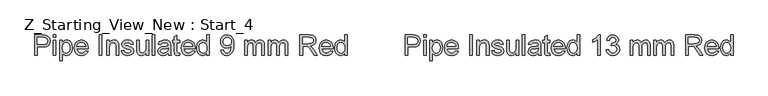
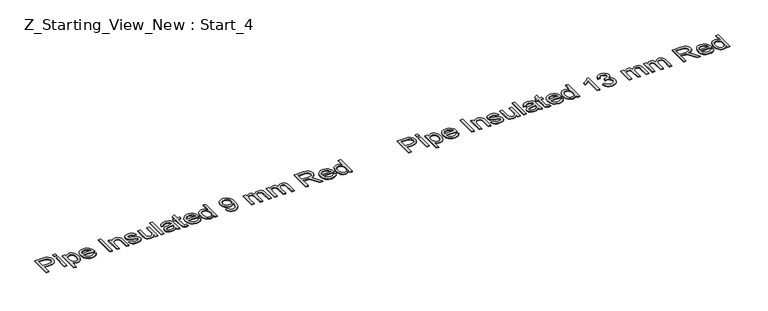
"""IFC4 building model written with IfcOpenShell, lengths in millimetres: pipe fitting geometry, Z_Starting_View_New : Start_4."""

from ifc_helpers import new_model, si_unit, origin, origin_with_axes, place, context, project, spatial, polyline, outline, extrude, source, transform, mapped, element, save


def z_starting_view_new_start_4_b7e0aab5(model_context):
    return source(origin(), model_context, "Body", "SweptSolid", [
        extrude(outline(polyline([(29878.0996155, 7445.7857303), (29878.0996155, 7596.4701955), (29933.9441023, 7596.4701955), (29956.4584805, 7595.0354557), (29974.7606097, 7587.9905155), (29986.6248041, 7573.4223885), (29991.1129644, 7552.8761791), (29988.0825365, 7535.1166757), (29978.9912527, 7520.3186225), (29961.990506, 7510.3306263), (29935.2316893, 7507.0012943), (29896.9351736, 7507.0012943), (29896.9351736, 7445.7857303), (29878.0996155, 7445.7857303)]), holes=[polyline([(29896.9351736, 7525.8368524), (29936.3353353, 7525.8368524), (29953.0371779, 7527.5658978), (29964.0736378, 7532.7530339), (29970.2264641, 7541.0763641), (29972.2774062, 7552.2139915), (29967.439758, 7567.8121881), (29954.7294351, 7576.3470504), (29935.8938769, 7577.6346373), (29896.9351736, 7577.6346373), (29896.9351736, 7525.8368524)])]), origin_with_axes(), (0.0, 0.0, 1.0), 5.0),
        extrude(outline(polyline([(30014.6574121, 7445.7857303), (30014.6574121, 7556.4446344), (30033.4929702, 7556.4446344), (30033.4929702, 7445.7857303), (30014.6574121, 7445.7857303)])), origin_with_axes(), (0.0, 0.0, 1.0), 5.0),
        extrude(outline(polyline([(30014.6574121, 7577.6346373), (30014.6574121, 7596.4701955), (30033.4929702, 7596.4701955), (30033.4929702, 7577.6346373), (30014.6574121, 7577.6346373)])), origin_with_axes(), (0.0, 0.0, 1.0), 5.0),
        extrude(outline(polyline([(30061.7463075, 7403.4057244), (30061.7463075, 7556.4446344), (30080.5818656, 7556.4446344), (30080.5818656, 7537.9769583), (30093.6048883, 7553.593549), (30111.1896476, 7558.7990792), (30123.9275617, 7556.9780633), (30135.0651891, 7551.5150157), (30144.1334803, 7542.7410301), (30150.6633857, 7530.9872003), (30155.9240982, 7501.9613109), (30154.4387747, 7485.8526781), (30149.982804, 7471.4454994), (30142.6987405, 7459.4709405), (30132.7291384, 7450.6601667), (30121.117863, 7445.2385058), (30108.9087793, 7443.4312855), (30092.5196364, 7448.2689337), (30080.5818656, 7460.5010101), (30080.5818656, 7403.4057244), (30061.7463075, 7403.4057244)]), holes=[polyline([(30080.5818656, 7500.2322656), (30082.6190122, 7483.346482), (30088.7304518, 7471.5374699), (30097.7481592, 7464.5845002), (30108.5041091, 7462.2668436), (30119.4348028, 7464.6672737), (30128.6824365, 7471.8685637), (30134.9870142, 7484.1098371), (30137.0885401, 7501.6302171), (30135.037598, 7518.4240302), (30128.8847716, 7530.3985892), (30119.8808598, 7537.5722881), (30109.2766613, 7539.963521), (30098.631076, 7537.4205367), (30089.2822748, 7529.7915839), (30082.7569679, 7517.3157857), (30080.5818656, 7500.2322656)])]), origin_with_axes(), (0.0, 0.0, 1.0), 5.0),
        extrude(outline(polyline([(30254.5900493, 7478.747957), (30273.0577255, 7476.3935123), (30266.4036599, 7462.4783758), (30255.7856658, 7452.0765124), (30241.4428665, 7445.5925922), (30223.6143854, 7443.4312855), (30201.5138745, 7447.1606892), (30184.5085293, 7458.3489004), (30173.6652075, 7476.2693521), (30170.0507669, 7500.1954774), (30173.7019957, 7524.9263445), (30184.6556821, 7543.4216118), (30201.431101, 7554.9547123), (30222.5475276, 7558.7990792), (30243.006365, 7554.9639094), (30259.3541212, 7543.4584), (30270.0732828, 7524.9999209), (30273.6463367, 7500.305842), (30273.5359721, 7495.2290704), (30188.886325, 7495.2290704), (30192.1466792, 7481.129993), (30199.7204498, 7470.7649177), (30210.6511435, 7464.3913622), (30223.9822673, 7462.2668436), (30242.4499435, 7466.203181), (30254.5900493, 7478.747957)]), holes=[polyline([(30188.886325, 7514.0646286), (30254.8107785, 7514.0646286), (30252.2631957, 7524.0158365), (30247.2691976, 7531.1343531), (30236.2879201, 7537.7562291), (30222.4739512, 7539.963521), (30209.7774238, 7538.202286), (30199.2789914, 7532.9185808), (30191.9811323, 7524.6826227), (30188.886325, 7514.0646286)])]), origin_with_axes(), (0.0, 0.0, 1.0), 5.0),
        extrude(outline(polyline([(30356.0519036, 7445.7857303), (30356.0519036, 7596.4701955), (30374.8874618, 7596.4701955), (30374.8874618, 7445.7857303), (30356.0519036, 7445.7857303)])), origin_with_axes(), (0.0, 0.0, 1.0), 5.0),
        extrude(outline(polyline([(30410.2041333, 7445.7857303), (30410.2041333, 7556.4446344), (30429.0396915, 7556.4446344), (30429.0396915, 7540.9935906), (30443.4422716, 7554.347707), (30463.1055642, 7558.7990792), (30480.8926587, 7555.2122297), (30493.0327645, 7545.7944507), (30498.6797531, 7531.9436935), (30499.6730345, 7513.7335348), (30499.6730345, 7445.7857303), (30480.8374764, 7445.7857303), (30480.8374764, 7511.195149), (30478.6669726, 7527.8602034), (30470.996633, 7536.6709772), (30458.0655809, 7539.963521), (30447.0337195, 7538.114914), (30437.629736, 7532.5690929), (30431.1872026, 7521.8545298), (30429.0396915, 7504.4996967), (30429.0396915, 7445.7857303), (30410.2041333, 7445.7857303)])), origin_with_axes(), (0.0, 0.0, 1.0), 5.0),
        extrude(outline(polyline([(30518.5085927, 7478.747957), (30537.3441508, 7481.1024018), (30540.3147979, 7473.0457861), (30546.0629541, 7467.122886), (30566.0389465, 7462.2668436), (30585.2423866, 7466.7182158), (30591.4963805, 7477.1660645), (30589.923685, 7481.9669245), (30585.2055984, 7485.6273503), (30565.8182173, 7490.9984275), (30537.4545154, 7500.2138715), (30525.0752863, 7510.9744198), (30520.8630375, 7526.1679462), (30524.2475518, 7540.2026443), (30533.4813899, 7550.9264045), (30545.4559488, 7556.4998167), (30561.6611507, 7558.7990792), (30584.580199, 7555.1018651), (30599.148326, 7545.0954749), (30605.6230491, 7528.1912972), (30586.787491, 7525.8368524), (30579.7057626, 7536.2295188), (30563.1326787, 7539.963521), (30545.1064609, 7536.3950657), (30539.6985956, 7528.0809326), (30541.9426758, 7522.5994909), (30548.9692219, 7518.4424243), (30565.1928179, 7514.4325106), (30592.8391498, 7505.5665545), (30605.6782314, 7495.523376), (30610.3319387, 7479.1526272), (30604.8688911, 7461.1264095), (30589.1051476, 7448.0482045), (30565.7814291, 7443.4312855), (30546.7895211, 7445.6569716), (30532.9295669, 7452.3340298), (30523.6773347, 7463.3888837), (30518.5085927, 7478.747957)])), origin_with_axes(), (0.0, 0.0, 1.0), 5.0),
        extrude(outline(polyline([(30702.1552847, 7445.7857303), (30702.1552847, 7464.8052294), (30687.4032167, 7448.7747715), (30668.1629883, 7443.4312855), (30650.4494703, 7447.1836818), (30638.235788, 7456.6014609), (30632.6255876, 7470.4706121), (30631.5219416, 7487.9817951), (30631.5219416, 7556.4446344), (30650.3574998, 7556.4446344), (30650.3574998, 7496.8477512), (30651.4979339, 7477.644311), (30658.9475443, 7466.3687279), (30672.9822425, 7462.2668436), (30688.7091978, 7466.4606984), (30699.1018641, 7477.8834343), (30702.1552847, 7498.8711022), (30702.1552847, 7556.4446344), (30720.9908428, 7556.4446344), (30720.9908428, 7445.7857303), (30702.1552847, 7445.7857303)])), origin_with_axes(), (0.0, 0.0, 1.0), 5.0),
        extrude(outline(polyline([(30746.8897353, 7445.7857303), (30746.8897353, 7596.4701955), (30765.7252934, 7596.4701955), (30765.7252934, 7445.7857303), (30746.8897353, 7445.7857303)])), origin_with_axes(), (0.0, 0.0, 1.0), 5.0),
        extrude(outline(polyline([(30864.6119737, 7459.9123989), (30846.3466327, 7447.1468936), (30826.1683053, 7443.4312855), (30810.4275544, 7445.6661686), (30798.8162789, 7452.370818), (30791.6563756, 7462.5519522), (30789.2697411, 7475.2162899), (30792.8749847, 7490.1155107), (30802.3479461, 7500.9312413), (30815.5365156, 7507.1116589), (30831.833688, 7509.9443502), (30864.5016091, 7516.4190733), (30864.6119737, 7520.6129281), (30863.3151897, 7529.0190317), (30859.4248376, 7534.5188675), (30850.7244284, 7538.6023576), (30838.6027167, 7539.963521), (30819.5464293, 7536.3398834), (30810.4597441, 7523.4824076), (30791.6241859, 7525.8368524), (30799.7727721, 7544.2309522), (30816.1803091, 7555.0098946), (30841.0307379, 7558.7990792), (30863.8578157, 7555.451353), (30876.7520796, 7547.0452494), (30882.5278269, 7534.2613501), (30883.4475319, 7517.7802367), (30883.4475319, 7494.3461536), (30884.4040251, 7461.6230502), (30888.1564214, 7445.7857303), (30869.3208633, 7445.7857303), (30864.6119737, 7459.9123989)]), holes=[polyline([(30864.6119737, 7497.5835152), (30834.2249209, 7491.8077679), (30818.0197191, 7488.7543473), (30810.6804733, 7483.7879404), (30808.1052993, 7476.5406651), (30813.7154997, 7466.3503338), (30830.178219, 7462.2668436), (30849.2345063, 7466.7733981), (30861.521765, 7477.6810992), (30864.5016091, 7492.2492263), (30864.6119737, 7497.5835152)])]), origin_with_axes(), (0.0, 0.0, 1.0), 5.0),
        extrude(outline(polyline([(30949.3719854, 7461.4942915), (30951.7264302, 7445.2339073), (30937.6365498, 7443.4312855), (30921.8544122, 7446.5582825), (30913.9817375, 7454.7620509), (30911.7008691, 7476.1359949), (30911.7008691, 7537.6090763), (30897.5742005, 7537.6090763), (30897.5742005, 7556.4446344), (30911.7008691, 7556.4446344), (30911.7008691, 7583.3368083), (30930.5364273, 7594.4100563), (30930.5364273, 7556.4446344), (30949.3719854, 7556.4446344), (30949.3719854, 7537.6090763), (30930.5364273, 7537.6090763), (30930.5364273, 7476.6878179), (30931.5297087, 7466.9757332), (30934.7486761, 7463.5360365), (30941.1682169, 7462.2668436), (30949.3719854, 7461.4942915)])), origin_with_axes(), (0.0, 0.0, 1.0), 5.0),
        extrude(outline(polyline([(31045.6834918, 7478.747957), (31064.1511679, 7476.3935123), (31057.4971023, 7462.4783758), (31046.8791083, 7452.0765124), (31032.536309, 7445.5925922), (31014.7078278, 7443.4312855), (30992.6073169, 7447.1606892), (30975.6019717, 7458.3489004), (30964.7586499, 7476.2693521), (30961.1442093, 7500.1954774), (30964.7954381, 7524.9263445), (30975.7491245, 7543.4216118), (30992.5245435, 7554.9547123), (31013.64097, 7558.7990792), (31034.0998074, 7554.9639094), (31050.4475636, 7543.4584), (31061.1667252, 7524.9999209), (31064.7397791, 7500.305842), (31064.6294145, 7495.2290704), (30979.9797674, 7495.2290704), (30983.2401216, 7481.129993), (30990.8138922, 7470.7649177), (31001.744586, 7464.3913622), (31015.0757098, 7462.2668436), (31033.5433859, 7466.203181), (31045.6834918, 7478.747957)]), holes=[polyline([(30979.9797674, 7514.0646286), (31045.904221, 7514.0646286), (31043.3566382, 7524.0158365), (31038.3626401, 7531.1343531), (31027.3813625, 7537.7562291), (31013.5673936, 7539.963521), (31000.8708662, 7538.202286), (30990.3724338, 7532.9185808), (30983.0745747, 7524.6826227), (30979.9797674, 7514.0646286)])]), origin_with_axes(), (0.0, 0.0, 1.0), 5.0),
        extrude(outline(polyline([(31151.8542356, 7445.7857303), (31151.8542356, 7463.5544306), (31139.392233, 7448.4620718), (31122.1661586, 7443.4312855), (31109.9892645, 7445.2523014), (31098.8424401, 7450.715349), (31089.4062669, 7459.4387508), (31082.3613267, 7471.0408292), (31077.9743339, 7485.0525347), (31076.512003, 7501.0048177), (31081.9014742, 7530.9872003), (31088.6337147, 7542.8789858), (31098.0514938, 7551.6253803), (31109.4420401, 7557.0056545), (31122.0925822, 7558.7990792), (31139.4566123, 7553.6671254), (31151.8542356, 7540.331403), (31151.8542356, 7596.4701955), (31170.6897937, 7596.4701955), (31170.6897937, 7445.7857303), (31151.8542356, 7445.7857303)]), holes=[polyline([(31095.3475611, 7501.0783941), (31097.4720796, 7484.0408592), (31103.8456352, 7471.923746), (31113.1070644, 7464.6810692), (31123.8952039, 7462.2668436), (31134.6787449, 7464.5707046), (31143.7056494, 7471.4822876), (31149.817089, 7483.1303513), (31151.8542356, 7499.6436544), (31149.7803008, 7517.6974633), (31143.5584966, 7530.2146482), (31134.3016659, 7537.5263028), (31123.1226518, 7539.963521), (31112.2241477, 7537.6228718), (31103.2938122, 7530.6009243), (31097.3341239, 7518.5389933), (31095.3475611, 7501.0783941)])]), origin_with_axes(), (0.0, 0.0, 1.0), 5.0),
        extrude(outline(polyline([(31255.4498054, 7483.4568466), (31274.2853636, 7485.8112913), (31277.504331, 7475.1197209), (31282.7466495, 7467.8402559), (31289.8835602, 7463.6601967), (31298.7863045, 7462.2668436), (31314.0350132, 7465.8536931), (31324.3724972, 7475.4370191), (31330.5345206, 7491.8077679), (31333.2568474, 7513.6599584), (31333.1464828, 7517.3387783), (31318.0817151, 7503.0649569), (31297.4251411, 7497.5835152), (31280.2496504, 7500.9312413), (31265.9528364, 7510.9744198), (31256.3097296, 7526.489843), (31253.0953607, 7546.2543031), (31256.4660794, 7566.6717539), (31266.5782358, 7582.6746207), (31281.7671637, 7593.0213018), (31300.368197, 7596.4701955), (31314.4166907, 7594.5020268), (31327.2051886, 7588.5975208), (31337.9013576, 7579.050983), (31345.6728647, 7566.1567191), (31350.4047469, 7548.3328364), (31351.982041, 7523.9974424), (31350.4093454, 7498.195119), (31345.6912588, 7478.2513163), (31337.8691679, 7463.2647236), (31326.9844594, 7452.3340298), (31313.5061828, 7445.6569716), (31297.9033877, 7443.4312855), (31281.7993533, 7446.0570432), (31268.9510746, 7453.9343165), (31259.9655569, 7466.5664645), (31255.4498054, 7483.4568466)]), holes=[polyline([(31333.1464828, 7546.6957615), (31331.1139348, 7559.4612668), (31325.0162907, 7569.283716), (31315.5525264, 7575.546907), (31303.4216176, 7577.6346373), (31290.8400534, 7575.3859586), (31280.7600867, 7568.6399226), (31274.1382108, 7558.3162341), (31271.9309188, 7545.3345982), (31274.0186491, 7533.6957315), (31280.2818401, 7524.4572949), (31290.1134864, 7518.4286287), (31302.9065828, 7516.4190733), (31314.9409226, 7518.4286287), (31324.6300146, 7524.4572949), (31331.0173658, 7534.0360224), (31333.1464828, 7546.6957615)])]), origin_with_axes(), (0.0, 0.0, 1.0), 5.0),
        extrude(outline(polyline([(31432.0331631, 7445.7857303), (31432.0331631, 7556.4446344), (31450.8687213, 7556.4446344), (31450.8687213, 7538.2344757), (31463.8181675, 7553.1520906), (31482.2490554, 7558.7990792), (31492.7244953, 7557.3597409), (31501.1214018, 7553.041726), (31511.4956741, 7536.9101005), (31526.1925598, 7553.3268345), (31544.7522064, 7558.7990792), (31558.9110647, 7556.5228093), (31569.381906, 7549.6939998), (31575.8520306, 7538.1287096), (31578.0087388, 7521.6429977), (31578.0087388, 7445.7857303), (31559.1731806, 7445.7857303), (31559.1731806, 7513.5495938), (31557.4257412, 7529.2765491), (31551.0981708, 7537.0204651), (31540.3376225, 7539.963521), (31530.1334956, 7538.0781258), (31521.814764, 7532.4219401), (31516.2827385, 7522.6086879), (31514.43873, 7508.252093), (31514.43873, 7445.7857303), (31495.6031719, 7445.7857303), (31495.6031719, 7515.6465212), (31491.2437702, 7533.8934681), (31485.4910155, 7538.4460078), (31476.9515547, 7539.963521), (31463.0088271, 7535.9168191), (31453.7382008, 7524.0710188), (31450.8687213, 7501.5934289), (31450.8687213, 7445.7857303), (31432.0331631, 7445.7857303)])), origin_with_axes(), (0.0, 0.0, 1.0), 5.0),
        extrude(outline(polyline([(31606.262076, 7445.7857303), (31606.262076, 7556.4446344), (31625.0976342, 7556.4446344), (31625.0976342, 7538.2344757), (31638.0470804, 7553.1520906), (31656.4779684, 7558.7990792), (31666.9534082, 7557.3597409), (31675.3503147, 7553.041726), (31685.724587, 7536.9101005), (31700.4214727, 7553.3268345), (31718.9811193, 7558.7990792), (31733.1399776, 7556.5228093), (31743.6108189, 7549.6939998), (31750.0809435, 7538.1287096), (31752.2376517, 7521.6429977), (31752.2376517, 7445.7857303), (31733.4020936, 7445.7857303), (31733.4020936, 7513.5495938), (31731.6546541, 7529.2765491), (31725.3270838, 7537.0204651), (31714.5665354, 7539.963521), (31704.3624086, 7538.0781258), (31696.0436769, 7532.4219401), (31690.5116514, 7522.6086879), (31688.6676429, 7508.252093), (31688.6676429, 7445.7857303), (31669.8320848, 7445.7857303), (31669.8320848, 7515.6465212), (31665.4726831, 7533.8934681), (31659.7199284, 7538.4460078), (31651.1804676, 7539.963521), (31637.23774, 7535.9168191), (31627.9671137, 7524.0710188), (31625.0976342, 7501.5934289), (31625.0976342, 7445.7857303), (31606.262076, 7445.7857303)])), origin_with_axes(), (0.0, 0.0, 1.0), 5.0),
        extrude(outline(polyline([(31841.7065529, 7445.7857303), (31841.7065529, 7596.4701955), (31906.6377251, 7596.4701955), (31936.7856546, 7592.4050994), (31946.0654779, 7586.7765049), (31953.266768, 7578.0209134), (31957.8882855, 7567.163796), (31959.4287914, 7555.2306238), (31956.8766101, 7540.3865853), (31949.220066, 7528.0809326), (31936.2292331, 7519.0586267), (31917.6741849, 7514.0646286), (31928.379551, 7506.0080129), (31943.6466538, 7486.6206317), (31968.7729941, 7445.7857303), (31946.8840154, 7445.7857303), (31927.275905, 7477.0189117), (31913.1124482, 7497.6938798), (31903.1612402, 7507.4611468), (31894.2033136, 7511.0479962), (31883.2772184, 7511.7101838), (31860.5421111, 7511.7101838), (31860.5421111, 7445.7857303), (31841.7065529, 7445.7857303)]), holes=[polyline([(31860.5421111, 7530.545742), (31902.7013877, 7530.545742), (31924.2040904, 7533.2128864), (31936.4177726, 7541.7477487), (31940.5932332, 7554.531648), (31938.6020719, 7563.7195009), (31932.628588, 7571.123126), (31922.3508848, 7576.0067595), (31907.4470655, 7577.6346373), (31860.5421111, 7577.6346373), (31860.5421111, 7530.545742)])]), origin_with_axes(), (0.0, 0.0, 1.0), 5.0),
        extrude(outline(polyline([(32067.5125216, 7478.747957), (32085.9801977, 7476.3935123), (32079.3261321, 7462.4783758), (32068.7081381, 7452.0765124), (32054.3653388, 7445.5925922), (32036.5368576, 7443.4312855), (32014.4363467, 7447.1606892), (31997.4310015, 7458.3489004), (31986.5876797, 7476.2693521), (31982.9732391, 7500.1954774), (31986.6244679, 7524.9263445), (31997.5781543, 7543.4216118), (32014.3535733, 7554.9547123), (32035.4699998, 7558.7990792), (32055.9288373, 7554.9639094), (32072.2765934, 7543.4584), (32082.995755, 7524.9999209), (32086.5688089, 7500.305842), (32086.4584443, 7495.2290704), (32001.8087972, 7495.2290704), (32005.0691514, 7481.129993), (32012.642922, 7470.7649177), (32023.5736158, 7464.3913622), (32036.9047396, 7462.2668436), (32055.3724157, 7466.203181), (32067.5125216, 7478.747957)]), holes=[polyline([(32001.8087972, 7514.0646286), (32067.7332508, 7514.0646286), (32065.185668, 7524.0158365), (32060.1916699, 7531.1343531), (32049.2103923, 7537.7562291), (32035.3964234, 7539.963521), (32022.699896, 7538.202286), (32012.2014636, 7532.9185808), (32004.9036045, 7524.6826227), (32001.8087972, 7514.0646286)])]), origin_with_axes(), (0.0, 0.0, 1.0), 5.0),
        extrude(outline(polyline([(32173.6832654, 7445.7857303), (32173.6832654, 7463.5544306), (32161.2212628, 7448.4620718), (32143.9951884, 7443.4312855), (32131.8182943, 7445.2523014), (32120.6714699, 7450.715349), (32111.2352967, 7459.4387508), (32104.1903565, 7471.0408292), (32099.8033637, 7485.0525347), (32098.3410328, 7501.0048177), (32103.730504, 7530.9872003), (32110.4627445, 7542.8789858), (32119.8805236, 7551.6253803), (32131.2710699, 7557.0056545), (32143.921612, 7558.7990792), (32161.2856421, 7553.6671254), (32173.6832654, 7540.331403), (32173.6832654, 7596.4701955), (32192.5188235, 7596.4701955), (32192.5188235, 7445.7857303), (32173.6832654, 7445.7857303)]), holes=[polyline([(32117.1765909, 7501.0783941), (32119.3011094, 7484.0408592), (32125.674665, 7471.923746), (32134.9360942, 7464.6810692), (32145.7242338, 7462.2668436), (32156.5077747, 7464.5707046), (32165.5346792, 7471.4822876), (32171.6461188, 7483.1303513), (32173.6832654, 7499.6436544), (32171.6093306, 7517.6974633), (32165.3875264, 7530.2146482), (32156.1306957, 7537.5263028), (32144.9516816, 7539.963521), (32134.0531775, 7537.6228718), (32125.122842, 7530.6009243), (32119.1631537, 7518.5389933), (32117.1765909, 7501.0783941)])]), origin_with_axes(), (0.0, 0.0, 1.0), 5.0),
        extrude(outline(polyline([(32620.4157186, 7445.7857303), (32620.4157186, 7596.4701955), (32676.2602055, 7596.4701955), (32698.7745836, 7595.0354557), (32717.0767129, 7587.9905155), (32728.9409072, 7573.4223885), (32733.4290676, 7552.8761791), (32730.3986396, 7535.1166757), (32721.3073558, 7520.3186225), (32704.3066091, 7510.3306263), (32677.5477925, 7507.0012943), (32639.2512768, 7507.0012943), (32639.2512768, 7445.7857303), (32620.4157186, 7445.7857303)]), holes=[polyline([(32639.2512768, 7525.8368524), (32678.6514385, 7525.8368524), (32695.3532811, 7527.5658978), (32706.3897409, 7532.7530339), (32712.5425673, 7541.0763641), (32714.5935094, 7552.2139915), (32709.7558612, 7567.8121881), (32697.0455382, 7576.3470504), (32678.2099801, 7577.6346373), (32639.2512768, 7577.6346373), (32639.2512768, 7525.8368524)])]), origin_with_axes(), (0.0, 0.0, 1.0), 5.0),
        extrude(outline(polyline([(32756.9735152, 7445.7857303), (32756.9735152, 7556.4446344), (32775.8090734, 7556.4446344), (32775.8090734, 7445.7857303), (32756.9735152, 7445.7857303)])), origin_with_axes(), (0.0, 0.0, 1.0), 5.0),
        extrude(outline(polyline([(32756.9735152, 7577.6346373), (32756.9735152, 7596.4701955), (32775.8090734, 7596.4701955), (32775.8090734, 7577.6346373), (32756.9735152, 7577.6346373)])), origin_with_axes(), (0.0, 0.0, 1.0), 5.0),
        extrude(outline(polyline([(32804.0624106, 7403.4057244), (32804.0624106, 7556.4446344), (32822.8979688, 7556.4446344), (32822.8979688, 7537.9769583), (32835.9209914, 7553.593549), (32853.5057508, 7558.7990792), (32866.2436649, 7556.9780633), (32877.3812923, 7551.5150157), (32886.4495834, 7542.7410301), (32892.9794889, 7530.9872003), (32898.2402014, 7501.9613109), (32896.7548778, 7485.8526781), (32892.2989072, 7471.4454994), (32885.0148437, 7459.4709405), (32875.0452416, 7450.6601667), (32863.4339661, 7445.2385058), (32851.2248824, 7443.4312855), (32834.8357395, 7448.2689337), (32822.8979688, 7460.5010101), (32822.8979688, 7403.4057244), (32804.0624106, 7403.4057244)]), holes=[polyline([(32822.8979688, 7500.2322656), (32824.9351153, 7483.346482), (32831.046555, 7471.5374699), (32840.0642624, 7464.5845002), (32850.8202122, 7462.2668436), (32861.750906, 7464.6672737), (32870.9985397, 7471.8685637), (32877.3031173, 7484.1098371), (32879.4046432, 7501.6302171), (32877.3537011, 7518.4240302), (32871.2008747, 7530.3985892), (32862.1969629, 7537.5722881), (32851.5927644, 7539.963521), (32840.9471792, 7537.4205367), (32831.598378, 7529.7915839), (32825.0730711, 7517.3157857), (32822.8979688, 7500.2322656)])]), origin_with_axes(), (0.0, 0.0, 1.0), 5.0),
        extrude(outline(polyline([(32996.9061525, 7478.747957), (33015.3738287, 7476.3935123), (33008.7197631, 7462.4783758), (32998.101769, 7452.0765124), (32983.7589697, 7445.5925922), (32965.9304885, 7443.4312855), (32943.8299776, 7447.1606892), (32926.8246324, 7458.3489004), (32915.9813106, 7476.2693521), (32912.36687, 7500.1954774), (32916.0180988, 7524.9263445), (32926.9717852, 7543.4216118), (32943.7472042, 7554.9547123), (32964.8636307, 7558.7990792), (32985.3224682, 7554.9639094), (33001.6702243, 7543.4584), (33012.389386, 7524.9999209), (33015.9624399, 7500.305842), (33015.8520753, 7495.2290704), (32931.2024282, 7495.2290704), (32934.4627823, 7481.129993), (32942.0365529, 7470.7649177), (32952.9672467, 7464.3913622), (32966.2983705, 7462.2668436), (32984.7660467, 7466.203181), (32996.9061525, 7478.747957)]), holes=[polyline([(32931.2024282, 7514.0646286), (32997.1268817, 7514.0646286), (32994.5792989, 7524.0158365), (32989.5853008, 7531.1343531), (32978.6040232, 7537.7562291), (32964.7900543, 7539.963521), (32952.093527, 7538.202286), (32941.5950945, 7532.9185808), (32934.2972354, 7524.6826227), (32931.2024282, 7514.0646286)])]), origin_with_axes(), (0.0, 0.0, 1.0), 5.0),
        extrude(outline(polyline([(33098.3680068, 7445.7857303), (33098.3680068, 7596.4701955), (33117.2035649, 7596.4701955), (33117.2035649, 7445.7857303), (33098.3680068, 7445.7857303)])), origin_with_axes(), (0.0, 0.0, 1.0), 5.0),
        extrude(outline(polyline([(33152.5202365, 7445.7857303), (33152.5202365, 7556.4446344), (33171.3557946, 7556.4446344), (33171.3557946, 7540.9935906), (33185.7583747, 7554.347707), (33205.4216674, 7558.7990792), (33223.2087618, 7555.2122297), (33235.3488677, 7545.7944507), (33240.9958563, 7531.9436935), (33241.9891377, 7513.7335348), (33241.9891377, 7445.7857303), (33223.1535795, 7445.7857303), (33223.1535795, 7511.195149), (33220.9830758, 7527.8602034), (33213.3127362, 7536.6709772), (33200.381684, 7539.963521), (33189.3498227, 7538.114914), (33179.9458392, 7532.5690929), (33173.5033058, 7521.8545298), (33171.3557946, 7504.4996967), (33171.3557946, 7445.7857303), (33152.5202365, 7445.7857303)])), origin_with_axes(), (0.0, 0.0, 1.0), 5.0),
        extrude(outline(polyline([(33260.8246958, 7478.747957), (33279.660254, 7481.1024018), (33282.6309011, 7473.0457861), (33288.3790573, 7467.122886), (33308.3550496, 7462.2668436), (33327.5584898, 7466.7182158), (33333.8124837, 7477.1660645), (33332.2397882, 7481.9669245), (33327.5217016, 7485.6273503), (33308.1343204, 7490.9984275), (33279.7706186, 7500.2138715), (33267.3913895, 7510.9744198), (33263.1791406, 7526.1679462), (33266.563655, 7540.2026443), (33275.797493, 7550.9264045), (33287.772052, 7556.4998167), (33303.9772539, 7558.7990792), (33326.8963022, 7555.1018651), (33341.4644292, 7545.0954749), (33347.9391523, 7528.1912972), (33329.1035941, 7525.8368524), (33322.0218657, 7536.2295188), (33305.4487819, 7539.963521), (33287.4225641, 7536.3950657), (33282.0146988, 7528.0809326), (33284.2587789, 7522.5994909), (33291.285325, 7518.4424243), (33307.508921, 7514.4325106), (33335.155253, 7505.5665545), (33347.9943346, 7495.523376), (33352.6480418, 7479.1526272), (33347.1849942, 7461.1264095), (33331.4212507, 7448.0482045), (33308.0975322, 7443.4312855), (33289.1056242, 7445.6569716), (33275.2456701, 7452.3340298), (33265.9934379, 7463.3888837), (33260.8246958, 7478.747957)])), origin_with_axes(), (0.0, 0.0, 1.0), 5.0),
        extrude(outline(polyline([(33444.4713878, 7445.7857303), (33444.4713878, 7464.8052294), (33429.7193198, 7448.7747715), (33410.4790915, 7443.4312855), (33392.7655734, 7447.1836818), (33380.5518912, 7456.6014609), (33374.9416907, 7470.4706121), (33373.8380448, 7487.9817951), (33373.8380448, 7556.4446344), (33392.6736029, 7556.4446344), (33392.6736029, 7496.8477512), (33393.8140371, 7477.644311), (33401.2636475, 7466.3687279), (33415.2983456, 7462.2668436), (33431.0253009, 7466.4606984), (33441.4179673, 7477.8834343), (33444.4713878, 7498.8711022), (33444.4713878, 7556.4446344), (33463.306946, 7556.4446344), (33463.306946, 7445.7857303), (33444.4713878, 7445.7857303)])), origin_with_axes(), (0.0, 0.0, 1.0), 5.0),
        extrude(outline(polyline([(33489.2058384, 7445.7857303), (33489.2058384, 7596.4701955), (33508.0413966, 7596.4701955), (33508.0413966, 7445.7857303), (33489.2058384, 7445.7857303)])), origin_with_axes(), (0.0, 0.0, 1.0), 5.0),
        extrude(outline(polyline([(33606.9280769, 7459.9123989), (33588.6627358, 7447.1468936), (33568.4844084, 7443.4312855), (33552.7436575, 7445.6661686), (33541.1323821, 7452.370818), (33533.9724787, 7462.5519522), (33531.5858443, 7475.2162899), (33535.1910878, 7490.1155107), (33544.6640492, 7500.9312413), (33557.8526187, 7507.1116589), (33574.1497911, 7509.9443502), (33606.8177123, 7516.4190733), (33606.9280769, 7520.6129281), (33605.6312929, 7529.0190317), (33601.7409408, 7534.5188675), (33593.0405316, 7538.6023576), (33580.9188198, 7539.963521), (33561.8625325, 7536.3398834), (33552.7758472, 7523.4824076), (33533.9402891, 7525.8368524), (33542.0888753, 7544.2309522), (33558.4964122, 7555.0098946), (33583.346841, 7558.7990792), (33606.1739188, 7555.451353), (33619.0681827, 7547.0452494), (33624.8439301, 7534.2613501), (33625.7636351, 7517.7802367), (33625.7636351, 7494.3461536), (33626.7201282, 7461.6230502), (33630.4725246, 7445.7857303), (33611.6369664, 7445.7857303), (33606.9280769, 7459.9123989)]), holes=[polyline([(33606.9280769, 7497.5835152), (33576.5410241, 7491.8077679), (33560.3358222, 7488.7543473), (33552.9965764, 7483.7879404), (33550.4214024, 7476.5406651), (33556.0316029, 7466.3503338), (33572.4943222, 7462.2668436), (33591.5506095, 7466.7733981), (33603.8378681, 7477.6810992), (33606.8177123, 7492.2492263), (33606.9280769, 7497.5835152)])]), origin_with_axes(), (0.0, 0.0, 1.0), 5.0),
        extrude(outline(polyline([(33691.6880886, 7461.4942915), (33694.0425334, 7445.2339073), (33679.9526529, 7443.4312855), (33664.1705154, 7446.5582825), (33656.2978407, 7454.7620509), (33654.0169723, 7476.1359949), (33654.0169723, 7537.6090763), (33639.8903037, 7537.6090763), (33639.8903037, 7556.4446344), (33654.0169723, 7556.4446344), (33654.0169723, 7583.3368083), (33672.8525304, 7594.4100563), (33672.8525304, 7556.4446344), (33691.6880886, 7556.4446344), (33691.6880886, 7537.6090763), (33672.8525304, 7537.6090763), (33672.8525304, 7476.6878179), (33673.8458118, 7466.9757332), (33677.0647793, 7463.5360365), (33683.4843201, 7462.2668436), (33691.6880886, 7461.4942915)])), origin_with_axes(), (0.0, 0.0, 1.0), 5.0),
        extrude(outline(polyline([(33787.9995949, 7478.747957), (33806.4672711, 7476.3935123), (33799.8132055, 7462.4783758), (33789.1952114, 7452.0765124), (33774.8524121, 7445.5925922), (33757.0239309, 7443.4312855), (33734.9234201, 7447.1606892), (33717.9180748, 7458.3489004), (33707.074753, 7476.2693521), (33703.4603124, 7500.1954774), (33707.1115412, 7524.9263445), (33718.0652276, 7543.4216118), (33734.8406466, 7554.9547123), (33755.9570731, 7558.7990792), (33776.4159106, 7554.9639094), (33792.7636668, 7543.4584), (33803.4828284, 7524.9999209), (33807.0558823, 7500.305842), (33806.9455177, 7495.2290704), (33722.2958706, 7495.2290704), (33725.5562248, 7481.129993), (33733.1299953, 7470.7649177), (33744.0606891, 7464.3913622), (33757.3918129, 7462.2668436), (33775.8594891, 7466.203181), (33787.9995949, 7478.747957)]), holes=[polyline([(33722.2958706, 7514.0646286), (33788.2203241, 7514.0646286), (33785.6727413, 7524.0158365), (33780.6787432, 7531.1343531), (33769.6974657, 7537.7562291), (33755.8834968, 7539.963521), (33743.1869694, 7538.202286), (33732.688537, 7532.9185808), (33725.3906779, 7524.6826227), (33722.2958706, 7514.0646286)])]), origin_with_axes(), (0.0, 0.0, 1.0), 5.0),
        extrude(outline(polyline([(33894.1703387, 7445.7857303), (33894.1703387, 7463.5544306), (33881.7083362, 7448.4620718), (33864.4822617, 7443.4312855), (33852.3053677, 7445.2523014), (33841.1585432, 7450.715349), (33831.7223701, 7459.4387508), (33824.6774298, 7471.0408292), (33820.2904371, 7485.0525347), (33818.8281061, 7501.0048177), (33824.2175774, 7530.9872003), (33830.9498179, 7542.8789858), (33840.3675969, 7551.6253803), (33851.7581432, 7557.0056545), (33864.4086853, 7558.7990792), (33881.7727155, 7553.6671254), (33894.1703387, 7540.331403), (33894.1703387, 7596.4701955), (33913.0058969, 7596.4701955), (33913.0058969, 7445.7857303), (33894.1703387, 7445.7857303)]), holes=[polyline([(33837.6636643, 7501.0783941), (33839.7881828, 7484.0408592), (33846.1617384, 7471.923746), (33855.4231676, 7464.6810692), (33866.2113071, 7462.2668436), (33876.9948481, 7464.5707046), (33886.0217525, 7471.4822876), (33892.1331922, 7483.1303513), (33894.1703387, 7499.6436544), (33892.096404, 7517.6974633), (33885.8745997, 7530.2146482), (33876.617769, 7537.5263028), (33865.4387549, 7539.963521), (33854.5402508, 7537.6228718), (33845.6099154, 7530.6009243), (33839.6502271, 7518.5389933), (33837.6636643, 7501.0783941)])]), origin_with_axes(), (0.0, 0.0, 1.0), 5.0),
        extrude(outline(polyline([(34066.0448069, 7445.7857303), (34047.2092487, 7445.7857303), (34047.2092487, 7563.2136631), (34029.366972, 7550.5033402), (34009.5381324, 7540.9935906), (34009.5381324, 7558.7990792), (34037.1476762, 7576.4206268), (34053.904701, 7596.4701955), (34066.0448069, 7596.4701955), (34066.0448069, 7445.7857303)])), origin_with_axes(), (0.0, 0.0, 1.0), 5.0),
        extrude(outline(polyline([(34110.7792575, 7485.8112913), (34129.6148157, 7488.1657361), (34133.831663, 7476.3291329), (34140.007482, 7468.3368966), (34148.4457753, 7463.7843569), (34159.4500455, 7462.2668436), (34172.3627035, 7464.354574), (34182.3323056, 7470.6177649), (34188.7058611, 7479.9619676), (34190.8303796, 7491.2927331), (34188.7242552, 7502.0486829), (34182.405882, 7510.7720847), (34172.8409501, 7516.5524306), (34160.9951498, 7518.4792125), (34147.7881862, 7516.4190733), (34149.8851136, 7535.2546315), (34152.9017459, 7535.0339023), (34174.2756899, 7540.4417676), (34181.3942065, 7547.3027668), (34183.7670453, 7557.0700338), (34182.047197, 7565.2048244), (34176.887652, 7571.8037077), (34169.0149773, 7576.1769049), (34159.1557399, 7577.6346373), (34149.2781083, 7576.1631094), (34141.2030985, 7571.7485254), (34135.3077895, 7564.3908855), (34131.9692604, 7554.0901896), (34113.1337023, 7556.4446344), (34118.6795233, 7573.3580091), (34128.5479579, 7585.9855586), (34142.0492271, 7593.8490363), (34158.4935523, 7596.4701955), (34181.2102655, 7591.3014535), (34197.1027677, 7577.1747848), (34202.6026035, 7558.1736798), (34197.3786792, 7540.8096496), (34181.9276354, 7528.33845), (34193.7182533, 7523.5743781), (34202.4554507, 7515.4625802), (34207.863316, 7504.4445144), (34209.6659378, 7490.9616393), (34206.0606942, 7472.6043277), (34195.2449636, 7457.2636485), (34178.9202001, 7446.8893763), (34158.7878579, 7443.4312855), (34140.5776991, 7446.3835385), (34125.7520547, 7455.2402975), (34115.4421618, 7468.787552), (34110.7792575, 7485.8112913)])), origin_with_axes(), (0.0, 0.0, 1.0), 5.0),
        extrude(outline(polyline([(34289.71706, 7445.7857303), (34289.71706, 7556.4446344), (34308.5526181, 7556.4446344), (34308.5526181, 7538.2344757), (34321.5020643, 7553.1520906), (34339.9329523, 7558.7990792), (34350.4083921, 7557.3597409), (34358.8052986, 7553.041726), (34369.1795709, 7536.9101005), (34383.8764566, 7553.3268345), (34402.4361033, 7558.7990792), (34416.5949616, 7556.5228093), (34427.0658029, 7549.6939998), (34433.5359274, 7538.1287096), (34435.6926356, 7521.6429977), (34435.6926356, 7445.7857303), (34416.8570775, 7445.7857303), (34416.8570775, 7513.5495938), (34415.109638, 7529.2765491), (34408.7820677, 7537.0204651), (34398.0215193, 7539.963521), (34387.8173925, 7538.0781258), (34379.4986609, 7532.4219401), (34373.9666354, 7522.6086879), (34372.1226269, 7508.252093), (34372.1226269, 7445.7857303), (34353.2870687, 7445.7857303), (34353.2870687, 7515.6465212), (34348.9276671, 7533.8934681), (34343.1749124, 7538.4460078), (34334.6354516, 7539.963521), (34320.6927239, 7535.9168191), (34311.4220977, 7524.0710188), (34308.5526181, 7501.5934289), (34308.5526181, 7445.7857303), (34289.71706, 7445.7857303)])), origin_with_axes(), (0.0, 0.0, 1.0), 5.0),
        extrude(outline(polyline([(34463.9459729, 7445.7857303), (34463.9459729, 7556.4446344), (34482.781531, 7556.4446344), (34482.781531, 7538.2344757), (34495.7309773, 7553.1520906), (34514.1618652, 7558.7990792), (34524.637305, 7557.3597409), (34533.0342116, 7553.041726), (34543.4084838, 7536.9101005), (34558.1053695, 7553.3268345), (34576.6650162, 7558.7990792), (34590.8238745, 7556.5228093), (34601.2947158, 7549.6939998), (34607.7648404, 7538.1287096), (34609.9215486, 7521.6429977), (34609.9215486, 7445.7857303), (34591.0859904, 7445.7857303), (34591.0859904, 7513.5495938), (34589.3385509, 7529.2765491), (34583.0109806, 7537.0204651), (34572.2504322, 7539.963521), (34562.0463054, 7538.0781258), (34553.7275738, 7532.4219401), (34548.1955483, 7522.6086879), (34546.3515398, 7508.252093), (34546.3515398, 7445.7857303), (34527.5159816, 7445.7857303), (34527.5159816, 7515.6465212), (34523.15658, 7533.8934681), (34517.4038253, 7538.4460078), (34508.8643645, 7539.963521), (34494.9216369, 7535.9168191), (34485.6510106, 7524.0710188), (34482.781531, 7501.5934289), (34482.781531, 7445.7857303), (34463.9459729, 7445.7857303)])), origin_with_axes(), (0.0, 0.0, 1.0), 5.0),
        extrude(outline(polyline([(34699.3904498, 7445.7857303), (34699.3904498, 7596.4701955), (34764.3216219, 7596.4701955), (34794.4695514, 7592.4050994), (34803.7493748, 7586.7765049), (34810.9506648, 7578.0209134), (34815.5721824, 7567.163796), (34817.1126882, 7555.2306238), (34814.5605069, 7540.3865853), (34806.9039629, 7528.0809326), (34793.9131299, 7519.0586267), (34775.3580818, 7514.0646286), (34786.0634478, 7506.0080129), (34801.3305506, 7486.6206317), (34826.4568909, 7445.7857303), (34804.5679122, 7445.7857303), (34784.9598019, 7477.0189117), (34770.796345, 7497.6938798), (34760.8451371, 7507.4611468), (34751.8872105, 7511.0479962), (34740.9611152, 7511.7101838), (34718.2260079, 7511.7101838), (34718.2260079, 7445.7857303), (34699.3904498, 7445.7857303)]), holes=[polyline([(34718.2260079, 7530.545742), (34760.3852846, 7530.545742), (34781.8879872, 7533.2128864), (34794.1016694, 7541.7477487), (34798.2771301, 7554.531648), (34796.2859688, 7563.7195009), (34790.3124849, 7571.123126), (34780.0347816, 7576.0067595), (34765.1309623, 7577.6346373), (34718.2260079, 7577.6346373), (34718.2260079, 7530.545742)])]), origin_with_axes(), (0.0, 0.0, 1.0), 5.0),
        extrude(outline(polyline([(34925.1964184, 7478.747957), (34943.6640946, 7476.3935123), (34937.010029, 7462.4783758), (34926.3920349, 7452.0765124), (34912.0492356, 7445.5925922), (34894.2207544, 7443.4312855), (34872.1202436, 7447.1606892), (34855.1148983, 7458.3489004), (34844.2715765, 7476.2693521), (34840.6571359, 7500.1954774), (34844.3083647, 7524.9263445), (34855.2620511, 7543.4216118), (34872.0374701, 7554.9547123), (34893.1538966, 7558.7990792), (34913.6127341, 7554.9639094), (34929.9604903, 7543.4584), (34940.6796519, 7524.9999209), (34944.2527058, 7500.305842), (34944.1423412, 7495.2290704), (34859.4926941, 7495.2290704), (34862.7530483, 7481.129993), (34870.3268188, 7470.7649177), (34881.2575126, 7464.3913622), (34894.5886364, 7462.2668436), (34913.0563126, 7466.203181), (34925.1964184, 7478.747957)]), holes=[polyline([(34859.4926941, 7514.0646286), (34925.4171476, 7514.0646286), (34922.8695648, 7524.0158365), (34917.8755667, 7531.1343531), (34906.8942892, 7537.7562291), (34893.0803202, 7539.963521), (34880.3837929, 7538.202286), (34869.8853604, 7532.9185808), (34862.5875014, 7524.6826227), (34859.4926941, 7514.0646286)])]), origin_with_axes(), (0.0, 0.0, 1.0), 5.0),
        extrude(outline(polyline([(35031.3671622, 7445.7857303), (35031.3671622, 7463.5544306), (35018.9051596, 7448.4620718), (35001.6790852, 7443.4312855), (34989.5021912, 7445.2523014), (34978.3553667, 7450.715349), (34968.9191935, 7459.4387508), (34961.8742533, 7471.0408292), (34957.4872605, 7485.0525347), (34956.0249296, 7501.0048177), (34961.4144008, 7530.9872003), (34968.1466414, 7542.8789858), (34977.5644204, 7551.6253803), (34988.9549667, 7557.0056545), (35001.6055088, 7558.7990792), (35018.969539, 7553.6671254), (35031.3671622, 7540.331403), (35031.3671622, 7596.4701955), (35050.2027204, 7596.4701955), (35050.2027204, 7445.7857303), (35031.3671622, 7445.7857303)]), holes=[polyline([(34974.8604878, 7501.0783941), (34976.9850063, 7484.0408592), (34983.3585619, 7471.923746), (34992.6199911, 7464.6810692), (35003.4081306, 7462.2668436), (35014.1916716, 7464.5707046), (35023.218576, 7471.4822876), (35029.3300157, 7483.1303513), (35031.3671622, 7499.6436544), (35029.2932275, 7517.6974633), (35023.0714232, 7530.2146482), (35013.8145925, 7537.5263028), (35002.6355784, 7539.963521), (34991.7370743, 7537.6228718), (34982.8067389, 7530.6009243), (34976.8470505, 7518.5389933), (34974.8604878, 7501.0783941)])]), origin_with_axes(), (0.0, 0.0, 1.0), 5.0),
    ])


if __name__ == "__main__":
    model = new_model("IFC4")
    model_context = context("Model", 3, world=origin())
    ifc_project = project(units=[si_unit("LENGTHUNIT", "METRE", prefix="MILLI")], contexts=[model_context])
    site = spatial("IfcSite", under=ifc_project)
    building = spatial("IfcBuilding", under=site)
    placement = place(None, origin())
    z_starting_view_new_start_4_shape = z_starting_view_new_start_4_b7e0aab5(model_context)
    element("IfcPipeFitting", 1, ObjectType="Z_Starting_View_New : Start_4", at=placement, inside=building, context=model_context, shape_type="MappedRepresentation", body=[
        mapped(z_starting_view_new_start_4_shape, transform((0.0, 0.0, 0.0), x_axis=(1.0, 0.0, 0.0), y_axis=(0.0, 1.0, 0.0), z_axis=(0.0, 0.0, 1.0))),
    ])
    save(model, "model.ifc")
